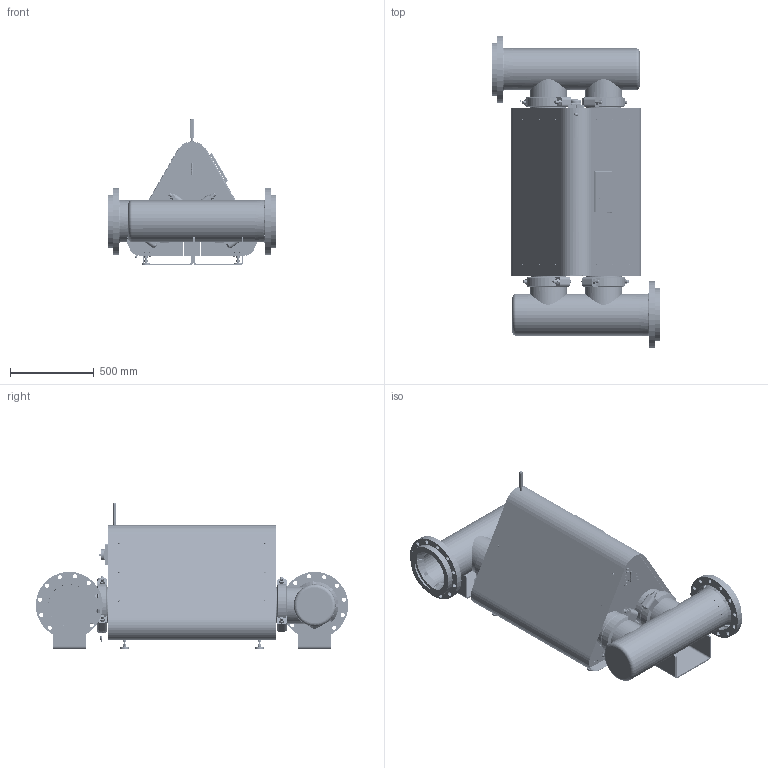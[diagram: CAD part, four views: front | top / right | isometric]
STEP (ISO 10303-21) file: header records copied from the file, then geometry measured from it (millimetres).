
FILE_DESCRIPTION(/* description */ (''),/* implementation_level */ '2;1');
FILE_NAME(/* name */ 'H Max 2_V1.1.stp',/* time_stamp */ '2024-01-15T11:05:06+01:00',/* author */ ('MassimoMaselli'),/* organization */ (''),/* preprocessor_version */ 'ST-DEVELOPER v20',/* originating_system */ 'Autodesk Inventor 2024',/* authorisation */ '');
FILE_SCHEMA (('AUTOMOTIVE_DESIGN { 1 0 10303 214 3 1 1 }'));
Length unit declared in the file: millimetre
Products named in the file (1): H Max 2_V1.1
Bounding box: 1010 x 1866.93 x 877.01 mm (x, y, z)
Volume: 58560268.5 mm3; surface area: 11735971.5 mm2
Topology: 111 solids, 112 shells, 9103 faces, 23551 edges, 15205 vertices
Faces by surface type: plane 3809, cylinder 2497, bspline 2021, cone 431, torus 269, sphere 76
Full cylindrical faces by diameter (mm): 0.88 x2, 0.9 x3, 1.92 x2, 2 x520, 3 x1, 3.2 x4, 3.251 x1, 3.3 x4, 3.5 x372, 4 x48, 4.2 x2, 4.3 x2, 4.5 x1, 4.55 x2, 4.56 x2, 4.66 x1, 4.826 x1, 5 x29, 5.3 x14, 5.35 x4, 5.486 x12, 5.66 x4, 5.8 x1, 6 x3, 6.198 x1, 6.25 x8, 6.38 x2, 6.424 x6, 6.5 x34, 6.6 x4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
Entity records: 394862 total; most frequent: CARTESIAN_POINT 169134, ORIENTED_EDGE 46942, DIRECTION 39743, EDGE_CURVE 23472, VERTEX_POINT 15205, AXIS2_PLACEMENT_3D 13849, LINE 12045, VECTOR 12045
